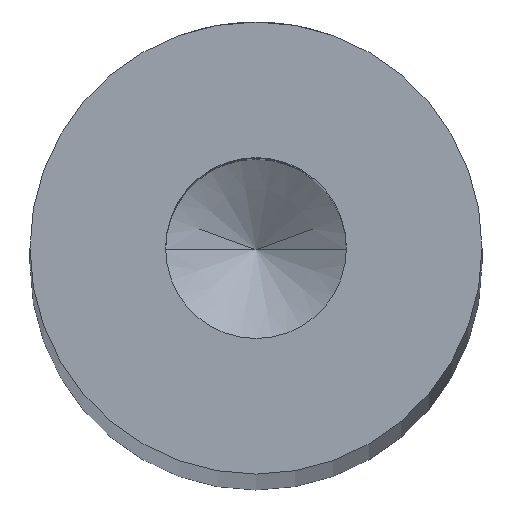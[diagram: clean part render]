
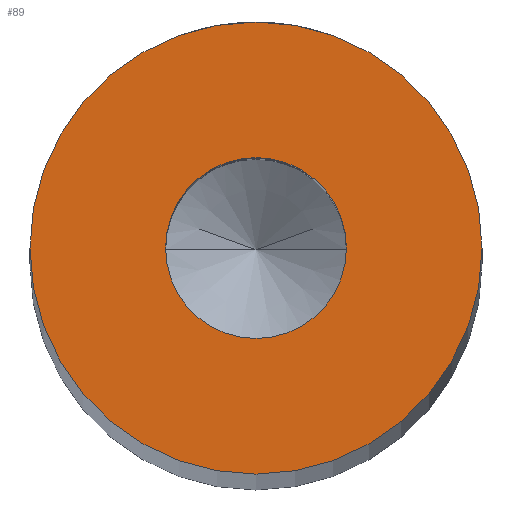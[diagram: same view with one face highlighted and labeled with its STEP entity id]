
A CAD part, top view. The second image highlights one B-rep face of the part: STEP entity #89.
In plain terms, the highlighted planar face has unit normal (0, 0, 1).
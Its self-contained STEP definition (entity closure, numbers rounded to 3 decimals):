
#45=FACE_BOUND('',#140,.T.);
#46=FACE_BOUND('',#141,.T.);
#56=PLANE('',#391);
#67=CIRCLE('',#385,2.);
#68=CIRCLE('',#388,5.);
#69=CIRCLE('',#389,5.);
#70=CIRCLE('',#390,2.);
#89=ADVANCED_FACE('NONE',(#45,#46),#56,.T.);
#140=EDGE_LOOP('',(#198,#199));
#141=EDGE_LOOP('',(#200,#201));
#198=ORIENTED_EDGE('',*,*,#315,.T.);
#199=ORIENTED_EDGE('',*,*,#316,.T.);
#200=ORIENTED_EDGE('',*,*,#312,.F.);
#201=ORIENTED_EDGE('',*,*,#317,.F.);
#275=VERTEX_POINT('',#640);
#278=VERTEX_POINT('',#645);
#280=VERTEX_POINT('',#653);
#281=VERTEX_POINT('',#654);
#312=EDGE_CURVE('NONE',#278,#275,#67,.T.);
#315=EDGE_CURVE('NONE',#280,#281,#68,.T.);
#316=EDGE_CURVE('NONE',#281,#280,#69,.T.);
#317=EDGE_CURVE('NONE',#275,#278,#70,.T.);
#385=AXIS2_PLACEMENT_3D('',#646,#450,#451);
#388=AXIS2_PLACEMENT_3D('',#652,#458,#459);
#389=AXIS2_PLACEMENT_3D('',#655,#460,#461);
#390=AXIS2_PLACEMENT_3D('',#656,#462,#463);
#391=AXIS2_PLACEMENT_3D('',#657,#464,#465);
#450=DIRECTION('',(0.,0.,1.));
#451=DIRECTION('',(1.,0.,0.));
#458=DIRECTION('',(0.,0.,1.));
#459=DIRECTION('',(1.,0.,0.));
#460=DIRECTION('',(0.,0.,1.));
#461=DIRECTION('',(1.,0.,0.));
#462=DIRECTION('',(0.,0.,1.));
#463=DIRECTION('',(1.,0.,0.));
#464=DIRECTION('',(0.,0.,1.));
#465=DIRECTION('',(1.,0.,0.));
#640=CARTESIAN_POINT('',(-2.,0.,-26.003));
#645=CARTESIAN_POINT('',(2.,0.,-26.003));
#646=CARTESIAN_POINT('',(0.,0.,-26.003));
#652=CARTESIAN_POINT('',(0.,0.,-26.003));
#653=CARTESIAN_POINT('',(5.,0.,-26.003));
#654=CARTESIAN_POINT('',(-5.,0.,-26.003));
#655=CARTESIAN_POINT('',(0.,0.,-26.003));
#656=CARTESIAN_POINT('',(0.,0.,-26.003));
#657=CARTESIAN_POINT('',(0.,5.,-26.003));
